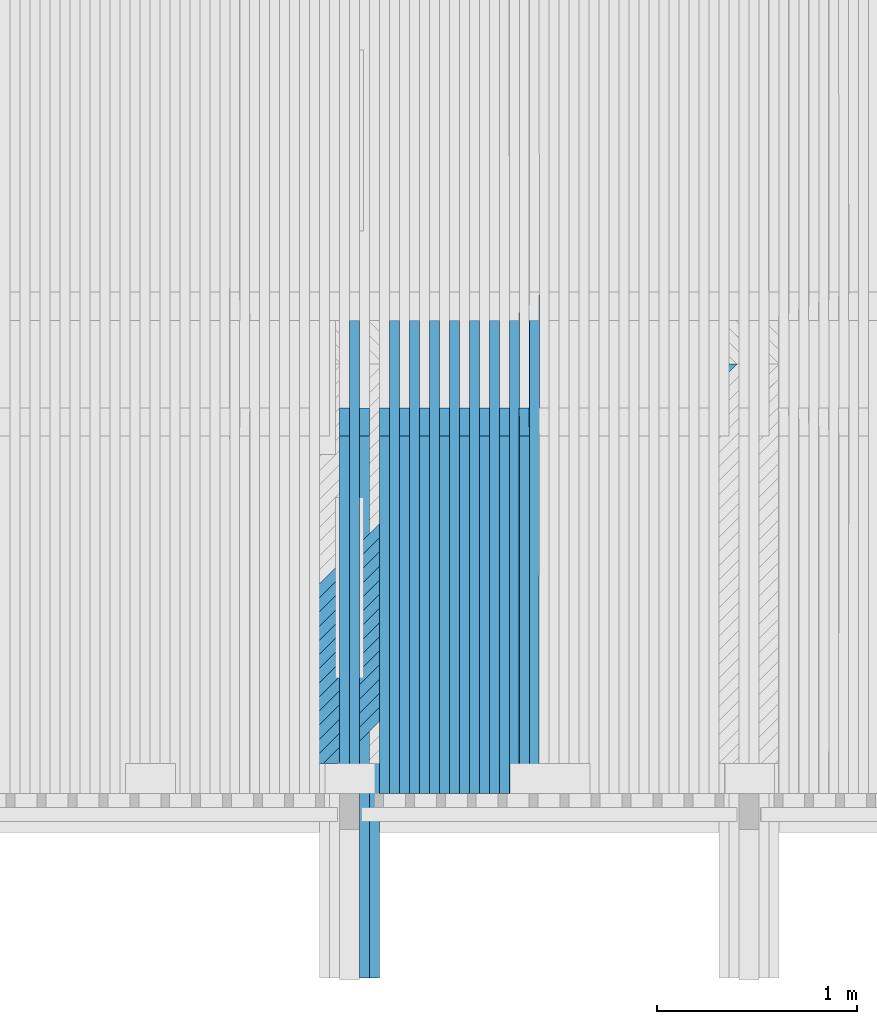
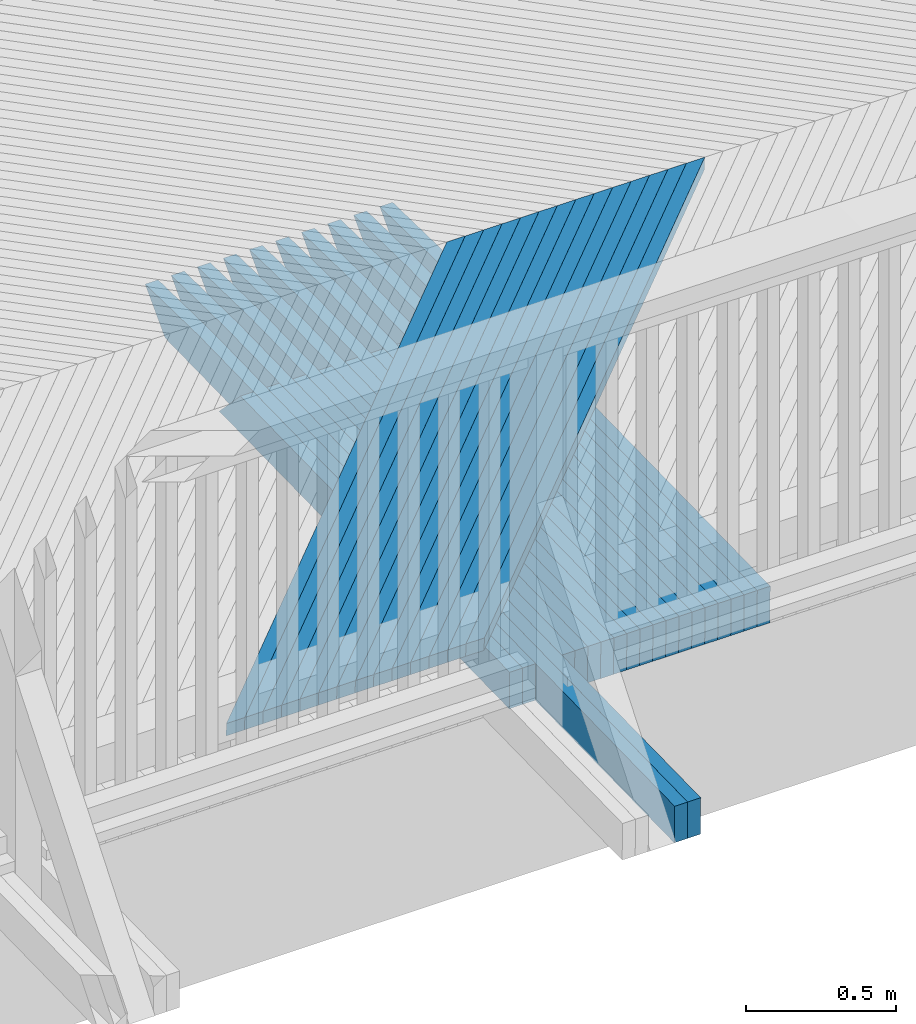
# One storey, part 29 of 53: 34 beams.
"""IFC2X3 building model written with IfcOpenShell, lengths in millimetres."""

from ifc_helpers import new_model, si_unit, frame, origin_with_axes, place, context, subcontext, project, spatial, faceted_brep, material, type_object, element, save


model = new_model("IFC2X3")

# Units and contexts
model_context = context("Model", 3, precision=1e-05, world=origin_with_axes())
body_context = subcontext(model_context, "Body", "Model", "MODEL_VIEW")
ifc_project = project(units=[si_unit("LENGTHUNIT", "METRE", prefix="MILLI"), si_unit("AREAUNIT", "SQUARE_METRE"), si_unit("VOLUMEUNIT", "CUBIC_METRE"), si_unit("MASSUNIT", "GRAM", prefix="KILO"), si_unit("TIMEUNIT", "SECOND"), si_unit("PLANEANGLEUNIT", "RADIAN"), si_unit("SOLIDANGLEUNIT", "STERADIAN"), si_unit("THERMODYNAMICTEMPERATUREUNIT", "DEGREE_CELSIUS"), si_unit("LUMINOUSINTENSITYUNIT", "LUMEN")], contexts=[model_context])

# Site, building, storey
site_placement = place(None, origin_with_axes())
site = spatial("IfcSite", under=ifc_project, at=site_placement, Name="Undefined", CompositionType="ELEMENT")
building_placement = place(site_placement, origin_with_axes())
building = spatial("IfcBuilding", under=site, at=building_placement, Name="Undefined", CompositionType="ELEMENT")
storey_placement = place(building_placement, origin_with_axes())
storey = spatial("IfcBuildingStorey", under=building, at=storey_placement, Name="Undefined", CompositionType="ELEMENT", Elevation=0.0)

# Beams
ifc_material = material(Name="TIMBER/Timber_Undefined")
beam_type_1 = type_object("IfcBeamType", Name="50*50", PredefinedType="NOTDEFINED")
for number, where, z_axis, x_axis, name in (
    (1, (9903.90922166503, 42364.5001003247, 3233.11191274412), (0.707070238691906, -0.706981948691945, -0.0151063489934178), (-0.707142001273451, -0.706948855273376, -0.0131721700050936), "BEAM"),
    (2, (9833.18532878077, 42364.5001003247, 3233.33139353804), (0.707072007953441, -0.706981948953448, -0.0150232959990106), (-0.707140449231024, -0.706948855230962, -0.0132552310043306), "BEAM"),
    (3, (9762.46141060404, 42364.5001003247, 3233.54256705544), (0.707073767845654, -0.706981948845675, -0.0149402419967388), (-0.707138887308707, -0.706948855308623, -0.0133382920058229), "BEAM"),
    (4, (9691.73746811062, 42364.5001003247, 3233.7454332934), (0.707075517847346, -0.706981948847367, -0.0148571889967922), (-0.707137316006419, -0.706948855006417, -0.0134213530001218), "BEAM"),
    (5, (9621.01350227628, 42364.5001003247, 3233.93999224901), (0.707077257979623, -0.706981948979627, -0.0147741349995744), (-0.707135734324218, -0.706948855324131, -0.0135044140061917), "BEAM"),
    (6, (9550.28951407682, 42364.5001003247, 3234.12624391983), (0.707078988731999, -0.706981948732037, -0.0146910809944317), (-0.70713414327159, -0.706948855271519, -0.0135874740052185), "BEAM"),
    (7, (9479.565504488, 42364.5001003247, 3234.30418830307), (0.70708070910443, -0.706981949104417, -0.0146080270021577), (-0.70713254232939, -0.706948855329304, -0.0136705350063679), "BEAM"),
    (8, (9408.8414744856, 42364.5001003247, 3234.4738253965), (0.707082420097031, -0.706981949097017, -0.0145249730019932), (-0.707130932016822, -0.706948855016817, -0.0137535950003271), "BEAM"),
    (9, (9338.11742504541, 42364.5001003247, 3234.63515519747), (0.707084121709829, -0.706981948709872, -0.0144419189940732), (-0.707129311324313, -0.70694885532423, -0.0138366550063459), "BEAM"),
    (10, (9267.39335714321, 42364.5001003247, 3234.78817770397), (0.70708581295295, -0.706981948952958, -0.0143588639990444), (-0.707127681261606, -0.706948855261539, -0.0139197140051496), "BEAM"),
    (11, (9196.66927175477, 42364.5001003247, 3234.93289291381), (0.707087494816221, -0.70698194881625, -0.0142758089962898), (-0.707126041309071, -0.706948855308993, -0.0140027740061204), "BEAM"),
    (12, (9125.94516985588, 42364.5001003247, 3235.06930082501), (0.707089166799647, -0.706981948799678, -0.0141927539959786), (-0.707124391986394, -0.706948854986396, -0.0140858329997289), "BEAM"),
    (13, (9055.22105242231, 42364.5001003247, 3235.1974014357), (0.707090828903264, -0.706981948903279, -0.0141096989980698), (-0.707122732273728, -0.706948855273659, -0.0141688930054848), "BEAM"),
    (14, (8984.49692042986, 42364.5001003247, 3235.31719474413), (0.707092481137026, -0.706981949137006, -0.0140266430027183), (-0.707121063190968, -0.706948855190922, -0.014251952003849), "BEAM"),
):
    element("IfcBeam", number, at=place(storey_placement, frame(where, z_axis=z_axis, x_axis=x_axis)), inside=storey, type_object=beam_type_1, material=ifc_material, Name=name, ObjectType="50*50", context=body_context, shape_type="Brep", body=[
        faceted_brep([(24.8942457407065, 25.0, -25.0), (-25.0086637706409, 24.9999999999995, 24.9999999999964), (2804.34067830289, 25.0, 25.0000000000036), (2854.34301907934, 24.9999999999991, -25.0000000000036), (-26.4222658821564, -25.0000000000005, 25.0000000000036), (2802.92643296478, -25.0, 25.0), (23.4806436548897, -25.0, -25.0), (2852.92877373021, -25.0000000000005, -25.0000000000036)], [[[0, 1, 2, 3]], [[1, 4, 5, 2]], [[4, 6, 7, 5]], [[6, 0, 3, 7]], [[5, 7, 3, 2]], [[6, 4, 1, 0]]]),
    ])
beam_type_2 = type_object("IfcBeamType", Name="150*50", PredefinedType="NOTDEFINED")
beam_1_placement = place(storey_placement, frame((8125.191946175, 39292.789347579, 3074.65962161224), z_axis=(0.000209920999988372, -0.0199960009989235, 0.999800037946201), x_axis=(2.76199999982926e-06, 0.999800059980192, 0.0199960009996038)))
element("IfcBeam", 15, at=beam_1_placement, inside=storey, type_object=beam_type_2, material=ifc_material, Name="BEAM", ObjectType="150*50", context=body_context, shape_type="Brep", body=[
    faceted_brep([(1.28420651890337e-08, -24.9999999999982, -74.9999999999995), (-1.28347892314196e-08, -24.9999999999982, 75.0), (-1.28347892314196e-08, 25.0, 75.0), (1.28420651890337e-08, 25.0000000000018, -75.0), (3298.90497884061, 24.9999999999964, -74.9999999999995), (3298.90492234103, -25.0, -74.9999999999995), (3434.49245887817, -25.0, 60.5875365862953), (3074.32503029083, -25.0, 75.0000000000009), (3074.32503673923, 25.0000000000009, 75.0), (3434.49251531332, 24.9999999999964, 60.5875365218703)], [[[0, 1, 2, 3]], [[0, 3, 4, 5]], [[1, 0, 5, 6, 7]], [[2, 1, 7, 8]], [[4, 3, 2, 8, 9]], [[5, 4, 9, 6]], [[8, 7, 6, 9]]]),
])
beam_2_placement = place(storey_placement, frame((8075.17416144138, 39292.7893321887, 3074.67012219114), z_axis=(4.3799000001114e-05, -0.0199960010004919, 0.999800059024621), x_axis=(-3.22000000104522e-07, 0.999800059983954, 0.019996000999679)))
element("IfcBeam", 16, at=beam_2_placement, inside=storey, type_object=beam_type_2, material=ifc_material, Name="BEAM", ObjectType="150*50", context=body_context, shape_type="Brep", body=[
    faceted_brep([(1.28420651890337e-08, -24.9999999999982, -74.9999999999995), (-1.28347892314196e-08, -24.9999999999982, 75.0), (-1.28347892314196e-08, 25.0, 75.0), (1.28420651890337e-08, 25.0000000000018, -75.0), (2852.32648139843, -25.0000000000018, -75.0000000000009), (2713.86938248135, -25.0000000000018, 74.9999999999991), (2713.86933800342, 25.0000000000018, 75.0), (2852.32643692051, 24.9999999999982, -75.0000000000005)], [[[0, 1, 2, 3]], [[1, 0, 4, 5]], [[2, 1, 5, 6]], [[3, 2, 6, 7]], [[0, 3, 7, 4]], [[4, 7, 6, 5]]]),
])
beam_3_placement = place(storey_placement, frame((8875.35105555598, 40216.5046076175, 3092.51355357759), z_axis=(0.00137347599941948, -0.0199960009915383, 0.999799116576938), x_axis=(2.74690000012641e-05, 0.999800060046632, 0.0199959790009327)))
element("IfcBeam", 17, at=beam_3_placement, inside=storey, type_object=beam_type_2, material=ifc_material, Name="BEAM", ObjectType="150*50", context=body_context, shape_type="Brep", body=[
    faceted_brep([(1.28420651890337e-08, -24.9999999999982, -74.9999999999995), (-1.28347892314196e-08, -24.9999999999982, 75.0), (-1.28347892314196e-08, 25.0, 75.0), (1.28420651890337e-08, 25.0000000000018, -75.0), (1928.42646353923, -25.0000000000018, -75.0), (1789.96936433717, -25.0000000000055, 74.9999999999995), (1789.96936408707, 24.9999999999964, 75.0000000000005), (1928.42646328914, 24.9999999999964, -74.9999999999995)], [[[0, 1, 2, 3]], [[1, 0, 4, 5]], [[2, 1, 5, 6]], [[3, 2, 6, 7]], [[0, 3, 7, 4]], [[7, 6, 5, 4]]]),
])
beam_4_placement = place(storey_placement, frame((8925.37102920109, 40216.5046076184, 3092.43652922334), z_axis=(0.00153959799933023, -0.0199960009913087, 0.999798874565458), x_axis=(3.0791000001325e-05, 0.999800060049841, 0.0199959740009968)))
element("IfcBeam", 18, at=beam_4_placement, inside=storey, type_object=beam_type_2, material=ifc_material, Name="BEAM", ObjectType="150*50", context=body_context, shape_type="Brep", body=[
    faceted_brep([(1.28420651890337e-08, -24.9999999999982, -74.9999999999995), (-1.28347892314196e-08, -24.9999999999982, 75.0), (-1.28347892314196e-08, 25.0, 75.0), (1.28420651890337e-08, 25.0000000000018, -75.0), (2375.00494422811, 25.0000000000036, -75.0), (2375.0049444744, -24.9999999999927, -74.9999999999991), (2510.5924871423, -24.9999999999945, 60.5875430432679), (2150.42520082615, -25.0000000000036, 75.0000000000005), (2150.42515052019, 25.0000000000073, 75.0), (2510.59248715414, 25.0000000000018, 60.5875433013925)], [[[0, 1, 2, 3]], [[0, 3, 4, 5]], [[1, 0, 5, 6, 7]], [[2, 1, 7, 8]], [[4, 3, 2, 8, 9]], [[5, 4, 9, 6]], [[8, 7, 6, 9]]]),
])
beam_5_placement = place(storey_placement, frame((8775.33111583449, 40216.5046076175, 3092.65068841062), z_axis=(0.00120735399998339, -0.0199960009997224, 0.999799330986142), x_axis=(2.41470000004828e-05, 0.999800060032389, 0.0199959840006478)))
element("IfcBeam", 19, at=beam_5_placement, inside=storey, type_object=beam_type_2, material=ifc_material, Name="BEAM", ObjectType="150*50", context=body_context, shape_type="Brep", body=[
    faceted_brep([(1.28420651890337e-08, -24.9999999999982, -74.9999999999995), (-1.28347892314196e-08, -24.9999999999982, 75.0), (-1.28347892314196e-08, 25.0, 75.0), (1.28420651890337e-08, 25.0000000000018, -75.0), (1928.42646353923, -25.0000000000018, -75.0), (1789.96936433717, -25.0000000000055, 74.9999999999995), (1789.96936408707, 24.9999999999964, 75.0000000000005), (1928.42646328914, 24.9999999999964, -74.9999999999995)], [[[0, 1, 2, 3]], [[1, 0, 4, 5]], [[2, 1, 5, 6]], [[3, 2, 6, 7]], [[0, 3, 7, 4]], [[7, 6, 5, 4]]]),
])
beam_6_placement = place(storey_placement, frame((8825.35110158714, 40216.5046076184, 3092.5819751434), z_axis=(0.00137347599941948, -0.0199960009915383, 0.999799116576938), x_axis=(2.74690000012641e-05, 0.999800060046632, 0.0199959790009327)))
element("IfcBeam", 20, at=beam_6_placement, inside=storey, type_object=beam_type_2, material=ifc_material, Name="BEAM", ObjectType="150*50", context=body_context, shape_type="Brep", body=[
    faceted_brep([(1.28420651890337e-08, -24.9999999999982, -74.9999999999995), (-1.28347892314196e-08, -24.9999999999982, 75.0), (-1.28347892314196e-08, 25.0, 75.0), (1.28420651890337e-08, 25.0000000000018, -75.0), (2375.00494422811, 25.0000000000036, -75.0), (2375.0049444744, -24.9999999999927, -74.9999999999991), (2510.5924871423, -24.9999999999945, 60.5875430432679), (2150.42514405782, -24.9999999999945, 75.0), (2150.42515052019, 25.0000000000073, 75.0), (2510.59248715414, 25.0000000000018, 60.5875433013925)], [[[0, 1, 2, 3]], [[0, 3, 4, 5]], [[1, 0, 5, 6, 7]], [[2, 1, 7, 8]], [[4, 3, 2, 8, 9]], [[5, 4, 9, 6]], [[6, 9, 8, 7]]]),
])
beam_7_placement = place(storey_placement, frame((8675.31115470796, 40216.5046076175, 3092.77120439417), z_axis=(0.00104123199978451, -0.0199960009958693, 0.99979951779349), x_axis=(2.08240000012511e-05, 0.999800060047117, 0.0199959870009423)))
element("IfcBeam", 21, at=beam_7_placement, inside=storey, type_object=beam_type_2, material=ifc_material, Name="BEAM", ObjectType="150*50", context=body_context, shape_type="Brep", body=[
    faceted_brep([(1.28420651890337e-08, -24.9999999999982, -74.9999999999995), (-1.28347892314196e-08, -24.9999999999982, 75.0), (-1.28347892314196e-08, 25.0, 75.0), (1.28420651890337e-08, 25.0000000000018, -75.0), (1928.42646353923, -25.0000000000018, -75.0), (1789.96936433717, -25.0000000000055, 74.9999999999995), (1789.96936408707, 24.9999999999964, 75.0000000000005), (1928.42646328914, 24.9999999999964, -74.9999999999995)], [[[0, 1, 2, 3]], [[1, 0, 4, 5]], [[2, 1, 5, 6]], [[3, 2, 6, 7]], [[0, 3, 7, 4]], [[7, 6, 5, 4]]]),
])
beam_8_placement = place(storey_placement, frame((8725.33115118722, 40216.5046076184, 3092.71080221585), z_axis=(0.00120735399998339, -0.0199960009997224, 0.999799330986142), x_axis=(2.41470000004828e-05, 0.999800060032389, 0.0199959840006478)))
element("IfcBeam", 22, at=beam_8_placement, inside=storey, type_object=beam_type_2, material=ifc_material, Name="BEAM", ObjectType="150*50", context=body_context, shape_type="Brep", body=[
    faceted_brep([(1.28420651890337e-08, -24.9999999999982, -74.9999999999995), (-1.28347892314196e-08, -24.9999999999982, 75.0), (-1.28347892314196e-08, 25.0, 75.0), (1.28420651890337e-08, 25.0000000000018, -75.0), (2375.00494422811, 25.0000000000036, -75.0), (2375.0049444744, -24.9999999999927, -74.9999999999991), (2510.5924871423, -24.9999999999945, 60.5875430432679), (2150.42520082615, -25.0000000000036, 75.0000000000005), (2150.42515052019, 25.0000000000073, 75.0), (2510.59248715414, 25.0000000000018, 60.5875433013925)], [[[0, 1, 2, 3]], [[0, 3, 4, 5]], [[1, 0, 5, 6, 7]], [[2, 1, 7, 8]], [[4, 3, 2, 8, 9]], [[5, 4, 9, 6]], [[8, 7, 6, 9]]]),
])
beam_9_placement = place(storey_placement, frame((8575.29117493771, 40216.5046076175, 3092.8751015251), z_axis=(0.00087510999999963, -0.0199960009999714, 0.999799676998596), x_axis=(1.75020000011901e-05, 0.999800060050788, 0.0199959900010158)))
element("IfcBeam", 23, at=beam_9_placement, inside=storey, type_object=beam_type_2, material=ifc_material, Name="BEAM", ObjectType="150*50", context=body_context, shape_type="Brep", body=[
    faceted_brep([(1.28420651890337e-08, -24.9999999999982, -74.9999999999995), (-1.28347892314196e-08, -24.9999999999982, 75.0), (-1.28347892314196e-08, 25.0, 75.0), (1.28420651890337e-08, 25.0000000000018, -75.0), (1928.42646353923, -25.0000000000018, -75.0), (1789.96936433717, -25.0000000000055, 74.9999999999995), (1789.96936408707, 24.9999999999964, 75.0000000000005), (1928.42646328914, 24.9999999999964, -74.9999999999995)], [[[0, 1, 2, 3]], [[1, 0, 4, 5]], [[2, 1, 5, 6]], [[3, 2, 6, 7]], [[0, 3, 7, 4]], [[7, 6, 5, 4]]]),
])
beam_10_placement = place(storey_placement, frame((8625.31118076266, 40216.5046076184, 3092.82301043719), z_axis=(0.00104123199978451, -0.0199960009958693, 0.99979951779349), x_axis=(2.08240000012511e-05, 0.999800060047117, 0.0199959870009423)))
element("IfcBeam", 24, at=beam_10_placement, inside=storey, type_object=beam_type_2, material=ifc_material, Name="BEAM", ObjectType="150*50", context=body_context, shape_type="Brep", body=[
    faceted_brep([(1.28420651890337e-08, -24.9999999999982, -74.9999999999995), (-1.28347892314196e-08, -24.9999999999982, 75.0), (-1.28347892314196e-08, 25.0, 75.0), (1.28420651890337e-08, 25.0000000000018, -75.0), (2375.00494422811, 25.0000000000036, -75.0), (2375.0049444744, -24.9999999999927, -74.9999999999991), (2510.5924871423, -24.9999999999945, 60.5875430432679), (2150.42514405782, -24.9999999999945, 75.0), (2150.42515052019, 25.0000000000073, 75.0), (2510.59248715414, 25.0000000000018, 60.5875433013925)], [[[0, 1, 2, 3]], [[0, 3, 4, 5]], [[1, 0, 5, 6, 7]], [[2, 1, 7, 8]], [[4, 3, 2, 8, 9]], [[5, 4, 9, 6]], [[6, 9, 8, 7]]]),
])
beam_11_placement = place(storey_placement, frame((8475.27117928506, 40216.5046076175, 3092.96237980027), z_axis=(0.000708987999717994, -0.019996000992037, 0.999799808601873), x_axis=(1.41790000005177e-05, 0.999800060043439, 0.0199959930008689)))
element("IfcBeam", 25, at=beam_11_placement, inside=storey, type_object=beam_type_2, material=ifc_material, Name="BEAM", ObjectType="150*50", context=body_context, shape_type="Brep", body=[
    faceted_brep([(1.28420651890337e-08, -24.9999999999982, -74.9999999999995), (-1.28347892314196e-08, -24.9999999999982, 75.0), (-1.28347892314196e-08, 25.0, 75.0), (1.28420651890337e-08, 25.0000000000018, -75.0), (1928.42646353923, -25.0000000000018, -75.0), (1789.96936433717, -25.0000000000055, 74.9999999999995), (1789.96936408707, 24.9999999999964, 75.0000000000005), (1928.42646328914, 24.9999999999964, -74.9999999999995)], [[[0, 1, 2, 3]], [[1, 0, 4, 5]], [[2, 1, 5, 6]], [[3, 2, 6, 7]], [[0, 3, 7, 4]], [[7, 6, 5, 4]]]),
])
beam_12_placement = place(storey_placement, frame((8525.29119307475, 40216.5046076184, 3092.91859980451), z_axis=(0.00087510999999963, -0.0199960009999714, 0.999799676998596), x_axis=(1.75020000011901e-05, 0.999800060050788, 0.0199959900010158)))
element("IfcBeam", 26, at=beam_12_placement, inside=storey, type_object=beam_type_2, material=ifc_material, Name="BEAM", ObjectType="150*50", context=body_context, shape_type="Brep", body=[
    faceted_brep([(1.28420651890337e-08, -24.9999999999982, -74.9999999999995), (-1.28347892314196e-08, -24.9999999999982, 75.0), (-1.28347892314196e-08, 25.0, 75.0), (1.28420651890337e-08, 25.0000000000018, -75.0), (2375.00494422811, 25.0000000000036, -75.0), (2375.0049444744, -24.9999999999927, -74.9999999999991), (2510.5924871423, -24.9999999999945, 60.5875430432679), (2150.42520082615, -25.0000000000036, 75.0000000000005), (2150.42515052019, 25.0000000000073, 75.0), (2510.59248715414, 25.0000000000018, 60.5875433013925)], [[[0, 1, 2, 3]], [[0, 3, 4, 5]], [[1, 0, 5, 6, 7]], [[2, 1, 7, 8]], [[4, 3, 2, 8, 9]], [[5, 4, 9, 6]], [[8, 7, 6, 9]]]),
])
beam_13_placement = place(storey_placement, frame((8375.25117051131, 40216.5046076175, 3093.03303921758), z_axis=(0.000542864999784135, -0.019996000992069, 0.999799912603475), x_axis=(1.08570000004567e-05, 0.999800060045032, 0.0199959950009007)))
element("IfcBeam", 27, at=beam_13_placement, inside=storey, type_object=beam_type_2, material=ifc_material, Name="BEAM", ObjectType="150*50", context=body_context, shape_type="Brep", body=[
    faceted_brep([(1.28420651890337e-08, -24.9999999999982, -74.9999999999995), (-1.28347892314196e-08, -24.9999999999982, 75.0), (-1.28347892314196e-08, 25.0, 75.0), (1.28420651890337e-08, 25.0000000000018, -75.0), (1928.42646353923, -25.0000000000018, -75.0), (1789.96936433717, -25.0000000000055, 74.9999999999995), (1789.96936408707, 24.9999999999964, 75.0000000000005), (1928.42646328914, 24.9999999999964, -74.9999999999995)], [[[0, 1, 2, 3]], [[1, 0, 4, 5]], [[2, 1, 5, 6]], [[3, 2, 6, 7]], [[0, 3, 7, 4]], [[7, 6, 5, 4]]]),
])
beam_14_placement = place(storey_placement, frame((8425.27119088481, 40216.5046076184, 3092.99757031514), z_axis=(0.000708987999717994, -0.019996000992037, 0.999799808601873), x_axis=(1.41790000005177e-05, 0.999800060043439, 0.0199959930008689)))
element("IfcBeam", 28, at=beam_14_placement, inside=storey, type_object=beam_type_2, material=ifc_material, Name="BEAM", ObjectType="150*50", context=body_context, shape_type="Brep", body=[
    faceted_brep([(1.28420651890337e-08, -24.9999999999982, -74.9999999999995), (-1.28347892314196e-08, -24.9999999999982, 75.0), (-1.28347892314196e-08, 25.0, 75.0), (1.28420651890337e-08, 25.0000000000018, -75.0), (2375.00494422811, 25.0000000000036, -75.0), (2375.0049444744, -24.9999999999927, -74.9999999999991), (2510.5924871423, -24.9999999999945, 60.5875430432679), (2150.42514405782, -24.9999999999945, 75.0), (2150.42515052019, 25.0000000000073, 75.0), (2510.59248715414, 25.0000000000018, 60.5875433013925)], [[[0, 1, 2, 3]], [[0, 3, 4, 5]], [[1, 0, 5, 6, 7]], [[2, 1, 7, 8]], [[4, 3, 2, 8, 9]], [[5, 4, 9, 6]], [[6, 9, 8, 7]]]),
])
beam_15_placement = place(storey_placement, frame((8275.23115137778, 40216.5046076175, 3093.08707977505), z_axis=(0.000376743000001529, -0.0199960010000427, 0.999799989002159), x_axis=(7.53400000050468e-06, 0.999800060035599, 0.019995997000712)))
element("IfcBeam", 29, at=beam_15_placement, inside=storey, type_object=beam_type_2, material=ifc_material, Name="BEAM", ObjectType="150*50", context=body_context, shape_type="Brep", body=[
    faceted_brep([(1.28420651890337e-08, -24.9999999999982, -74.9999999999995), (-1.28347892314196e-08, -24.9999999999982, 75.0), (-1.28347892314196e-08, 25.0, 75.0), (1.28420651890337e-08, 25.0000000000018, -75.0), (1928.42646353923, -25.0000000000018, -75.0), (1789.96936433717, -25.0000000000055, 74.9999999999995), (1789.96936408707, 24.9999999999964, 75.0000000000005), (1928.42646328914, 24.9999999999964, -74.9999999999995)], [[[0, 1, 2, 3]], [[1, 0, 4, 5]], [[2, 1, 5, 6]], [[3, 2, 6, 7]], [[0, 3, 7, 4]], [[7, 6, 5, 4]]]),
])
beam_16_placement = place(storey_placement, frame((8325.25117695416, 40216.5046076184, 3093.05992196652), z_axis=(0.000542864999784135, -0.019996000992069, 0.999799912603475), x_axis=(1.08570000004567e-05, 0.999800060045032, 0.0199959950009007)))
element("IfcBeam", 30, at=beam_16_placement, inside=storey, type_object=beam_type_2, material=ifc_material, Name="BEAM", ObjectType="150*50", context=body_context, shape_type="Brep", body=[
    faceted_brep([(1.28420651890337e-08, -24.9999999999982, -74.9999999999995), (-1.28347892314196e-08, -24.9999999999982, 75.0), (-1.28347892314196e-08, 25.0, 75.0), (1.28420651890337e-08, 25.0000000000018, -75.0), (2375.00494422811, 25.0000000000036, -75.0), (2375.0049444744, -24.9999999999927, -74.9999999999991), (2510.5924871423, -24.9999999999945, 60.5875430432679), (2150.42514405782, -24.9999999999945, 75.0), (2150.42515052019, 25.0000000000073, 75.0), (2510.59248715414, 25.0000000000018, 60.5875433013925)], [[[0, 1, 2, 3]], [[0, 3, 4, 5]], [[1, 0, 5, 6, 7]], [[2, 1, 7, 8]], [[4, 3, 2, 8, 9]], [[5, 4, 9, 6]], [[6, 9, 8, 7]]]),
])
beam_17_placement = place(storey_placement, frame((8175.21112464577, 40216.5046076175, 3093.12450147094), z_axis=(0.000209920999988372, -0.0199960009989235, 0.999800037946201), x_axis=(4.21200000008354e-06, 0.999800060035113, 0.0199959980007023)))
element("IfcBeam", 31, at=beam_17_placement, inside=storey, type_object=beam_type_2, material=ifc_material, Name="BEAM", ObjectType="150*50", context=body_context, shape_type="Brep", body=[
    faceted_brep([(1.28420651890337e-08, -24.9999999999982, -74.9999999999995), (-1.28347892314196e-08, -24.9999999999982, 75.0), (-1.28347892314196e-08, 25.0, 75.0), (1.28420651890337e-08, 25.0000000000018, -75.0), (1928.42646353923, -25.0000000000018, -75.0), (1789.96936433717, -25.0000000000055, 74.9999999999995), (1789.96936408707, 24.9999999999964, 75.0000000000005), (1928.42646328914, 24.9999999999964, -74.9999999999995)], [[[0, 1, 2, 3]], [[1, 0, 4, 5]], [[2, 1, 5, 6]], [[3, 2, 6, 7]], [[0, 3, 7, 4]], [[7, 6, 5, 4]]]),
])
beam_18_placement = place(storey_placement, frame((8225.23115404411, 40216.5046076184, 3093.10565475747), z_axis=(0.000376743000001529, -0.0199960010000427, 0.999799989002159), x_axis=(7.53400000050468e-06, 0.999800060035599, 0.019995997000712)))
element("IfcBeam", 32, at=beam_18_placement, inside=storey, type_object=beam_type_2, material=ifc_material, Name="BEAM", ObjectType="150*50", context=body_context, shape_type="Brep", body=[
    faceted_brep([(1.28420651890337e-08, -24.9999999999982, -74.9999999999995), (-1.28347892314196e-08, -24.9999999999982, 75.0), (-1.28347892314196e-08, 25.0, 75.0), (1.28420651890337e-08, 25.0000000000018, -75.0), (2375.00494422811, 25.0000000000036, -75.0), (2375.0049444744, -24.9999999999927, -74.9999999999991), (2510.5924871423, -24.9999999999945, 60.5875430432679), (2150.42514405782, -24.9999999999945, 75.0), (2150.42515052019, 25.0000000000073, 75.0), (2510.59248715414, 25.0000000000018, 60.5875433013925)], [[[0, 1, 2, 3]], [[0, 3, 4, 5]], [[1, 0, 5, 6, 7]], [[2, 1, 7, 8]], [[4, 3, 2, 8, 9]], [[5, 4, 9, 6]], [[6, 9, 8, 7]]]),
])
beam_19_placement = place(storey_placement, frame((7975.1710594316, 40216.5046076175, 3093.14948827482), z_axis=(-0.000122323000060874, -0.0199960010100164, 0.999800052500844), x_axis=(-2.7550000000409e-06, 0.999800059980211, 0.0199960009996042)))
element("IfcBeam", 33, at=beam_19_placement, inside=storey, type_object=beam_type_2, material=ifc_material, Name="BEAM", ObjectType="150*50", context=body_context, shape_type="Brep", body=[
    faceted_brep([(1.28420651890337e-08, -24.9999999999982, -74.9999999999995), (-1.28347892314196e-08, -24.9999999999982, 75.0), (-1.28347892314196e-08, 25.0, 75.0), (1.28420651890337e-08, 25.0000000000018, -75.0), (1928.42646353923, -25.0000000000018, -75.0), (1789.96936433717, -25.0000000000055, 74.9999999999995), (1789.96936408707, 24.9999999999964, 75.0000000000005), (1928.42646328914, 24.9999999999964, -74.9999999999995)], [[[0, 1, 2, 3]], [[1, 0, 4, 5]], [[2, 1, 5, 6]], [[3, 2, 6, 7]], [[0, 3, 7, 4]], [[7, 6, 5, 4]]]),
])
beam_20_placement = place(storey_placement, frame((8025.19109233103, 40216.5046076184, 3093.14726375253), z_axis=(4.3799000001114e-05, -0.0199960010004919, 0.999800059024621), x_axis=(8.90000000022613e-07, 0.999800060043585, 0.0199959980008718)))
element("IfcBeam", 34, at=beam_20_placement, inside=storey, type_object=beam_type_2, material=ifc_material, Name="BEAM", ObjectType="150*50", context=body_context, shape_type="Brep", body=[
    faceted_brep([(1.28420651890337e-08, -24.9999999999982, -74.9999999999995), (-1.28347892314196e-08, -24.9999999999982, 75.0), (-1.28347892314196e-08, 25.0, 75.0), (1.28420651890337e-08, 25.0000000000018, -75.0), (2375.00494422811, 25.0000000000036, -75.0), (2375.0049444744, -24.9999999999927, -74.9999999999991), (2510.5924871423, -24.9999999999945, 60.5875430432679), (2150.42514405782, -24.9999999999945, 75.0), (2150.42515052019, 25.0000000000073, 75.0), (2510.59248715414, 25.0000000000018, 60.5875433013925)], [[[0, 1, 2, 3]], [[0, 3, 4, 5]], [[1, 0, 5, 6, 7]], [[2, 1, 7, 8]], [[4, 3, 2, 8, 9]], [[5, 4, 9, 6]], [[6, 9, 8, 7]]]),
])

save(model, "model.ifc")
